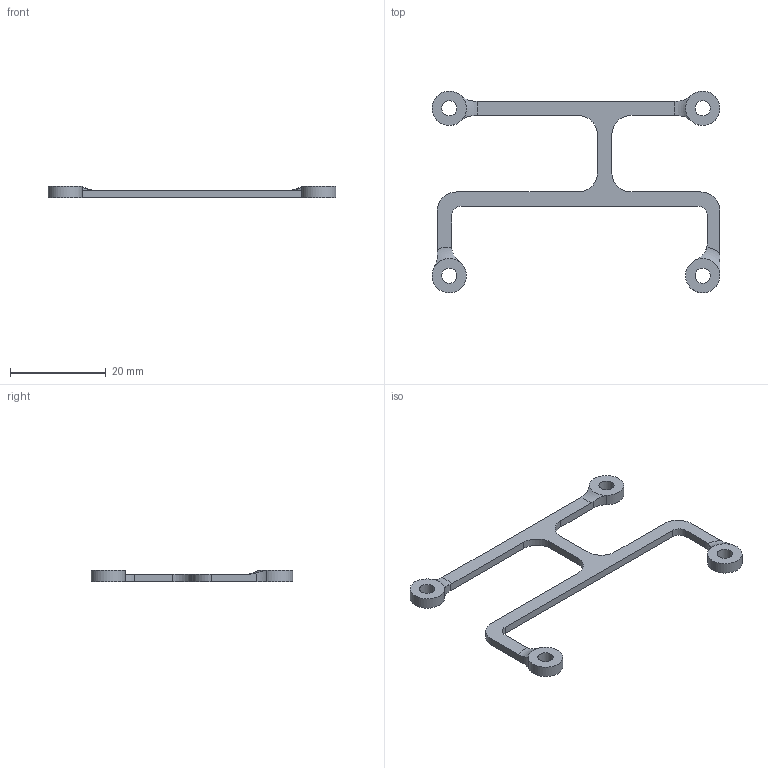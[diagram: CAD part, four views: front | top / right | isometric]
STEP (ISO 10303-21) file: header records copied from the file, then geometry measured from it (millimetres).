
FILE_DESCRIPTION(/* description */ (''),/* implementation_level */ '2;1');
FILE_NAME(/* name */ 'AMP_Socket_2.step',/* time_stamp */ '2026-06-21T17:23:43+02:00',/* author */ (''),/* organization */ (''),/* preprocessor_version */ 'ST-DEVELOPER v20.1',/* originating_system */ 'Autodesk Translation Framework v15.8.0.0',/* authorisation */ '');
FILE_SCHEMA (('AUTOMOTIVE_DESIGN { 1 0 10303 214 3 1 1 }'));
Length unit declared in the file: millimetre
Products named in the file (2): 2026-06-11-08-03-41-367; 2026-06-11-08-13-43-022
Assembly tree (1 placements, depth 2):
  2026-06-11-08-03-41-367
    2026-06-11-08-13-43-022
Bounding box: 60.2 x 42.19 x 2.4 mm (x, y, z)
Volume: 1030 mm3; surface area: 1862.7 mm2
Topology: 1 solids, 1 shells, 45 faces, 121 edges, 78 vertices
Faces by surface type: cylinder 23, plane 18, torus 4
Full cylindrical faces by diameter (mm): 3.2 x4
Entity records: 1614 total; most frequent: CARTESIAN_POINT 369, DIRECTION 255, ORIENTED_EDGE 242, EDGE_CURVE 121, AXIS2_PLACEMENT_3D 98, VERTEX_POINT 78, LINE 59, VECTOR 59
